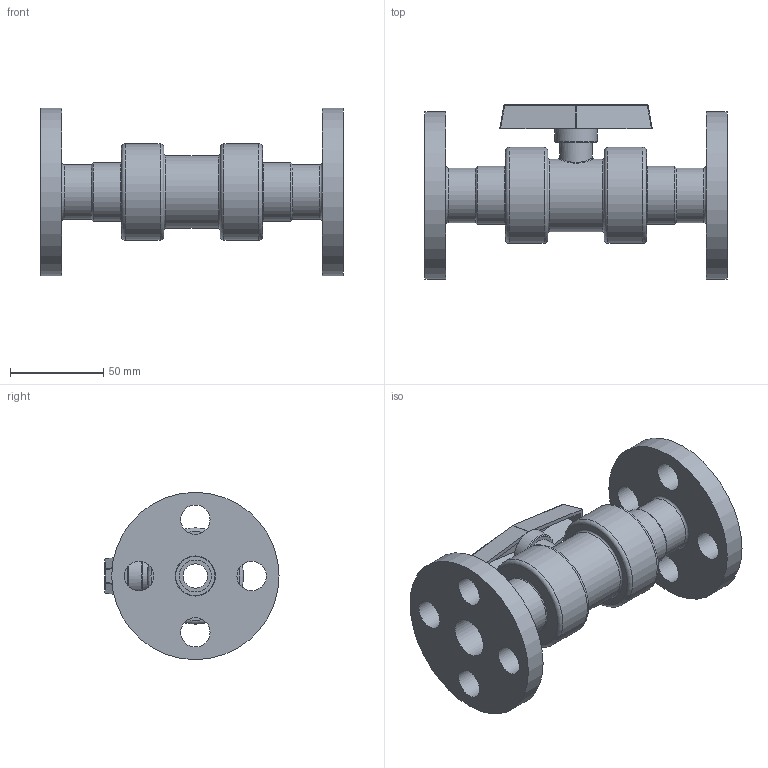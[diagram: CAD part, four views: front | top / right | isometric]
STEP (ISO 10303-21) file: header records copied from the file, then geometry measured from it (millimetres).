
FILE_DESCRIPTION (( 'STEP AP214' ), '1' );
FILE_NAME ('½ Inch -101 Series Ball Valves (Flange X Flange).STEP', '2020-10-27T12:04:58', ( '' ), ( '' ), 'SwSTEP 2.0', 'SolidWorks 2019', '' );
FILE_SCHEMA (( 'AUTOMOTIVE_DESIGN' ));
Length unit declared in the file: inch
Products named in the file (1): ½ Inch -101 Series Ball Valves (Flange X Flange)
Bounding box: 161.93 x 93.27 x 89.69 mm (x, y, z)
Volume: 262741.1 mm3; surface area: 70929.9 mm2
Topology: 4 solids, 4 shells, 100 faces, 219 edges, 131 vertices
Faces by surface type: cylinder 41, plane 37, torus 11, sphere 6, cone 4, bspline 1
Full cylindrical faces by diameter (mm): 12.568 x1, 13.005 x1, 15.748 x8, 17.117 x2, 17.648 x2, 21.539 x2, 22.648 x1, 29.293 x2, 31.293 x2, 38.894 x1, 51.594 x2, 89.694 x2
Entity records: 3049 total; most frequent: CARTESIAN_POINT 948, DIRECTION 442, ORIENTED_EDGE 326, AXIS2_PLACEMENT_3D 192, EDGE_LOOP 178, EDGE_CURVE 163, FACE_OUTER_BOUND 138, VERTEX_POINT 123
